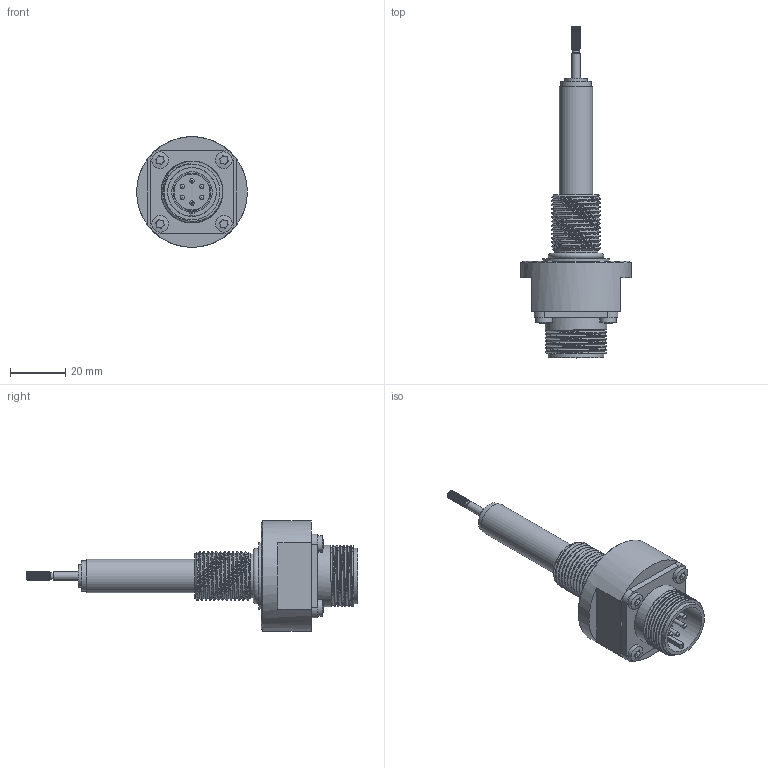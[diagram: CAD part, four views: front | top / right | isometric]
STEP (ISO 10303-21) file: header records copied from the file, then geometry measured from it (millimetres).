
FILE_DESCRIPTION( ( 'STEP AP203' ), '1' );
FILE_NAME( 'N:/Engineering/CAD_Solid/LVDT/HYD/Kunden-3D-Modell/SM10-HYD-18-S.stp', '2011-12-14T13:02:40', ( ' ' ), ( ' ' ), 'XStep 1.0', ' ', ' ' );
FILE_SCHEMA( ( 'CONFIG_CONTROL_DESIGN) ( )' ) );
Length unit declared in the file: metre
Products named in the file (17): 1; 2; 3; 4; 5; 6; 7; 8; 9; 10; 11; 12; 13; 14; 15; 16; 17
Bounding box: 40 x 119.9 x 40 mm (x, y, z)
Volume: 177.7 mm3; surface area: 14813.4 mm2
Topology: 1 solids, 136 shells, 144 faces, 643 edges, 598 vertices
Faces by surface type: plane 82, cylinder 37, bspline 13, cone 7, sphere 4, torus 1
Full cylindrical faces by diameter (mm): 1.6 x6, 2.4 x1, 3 x1, 4 x1, 6 x4, 8 x1, 11 x1, 12 x1, 15.8 x1, 17.6 x1, 20.2 x1, 22.3 x7, 24 x1, 40 x1
Entity records: 16916 total; most frequent: CARTESIAN_POINT 11537, DIRECTION 1038, ORIENTED_EDGE 570, EDGE_CURVE 570, VERTEX_POINT 570, AXIS2_PLACEMENT_3D 386, LINE 266, VECTOR 266
